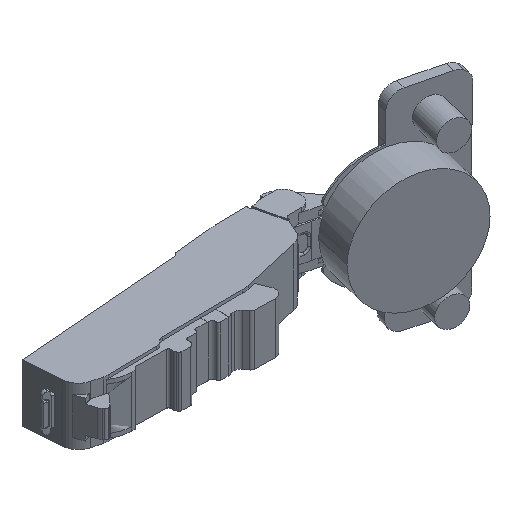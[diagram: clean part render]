
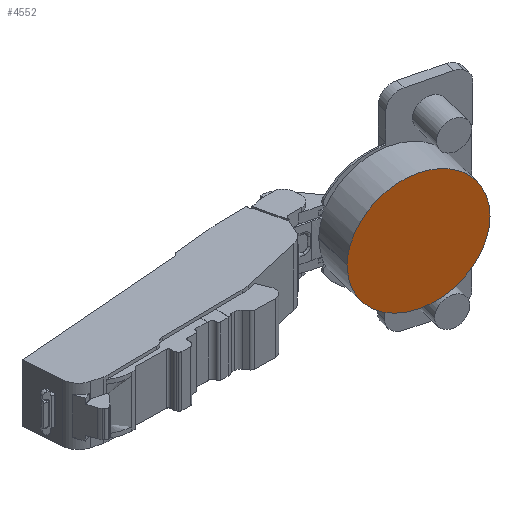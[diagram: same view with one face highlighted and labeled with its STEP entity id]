
A CAD part, isometric view. The second image highlights one B-rep face of the part: STEP entity #4552.
In plain terms, the highlighted planar face has unit normal (-0.242, -0.97, 0).
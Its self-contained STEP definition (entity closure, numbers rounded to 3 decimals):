
#70 = FACE_OUTER_BOUND ( 'NONE', #10309, .T. ) ;
#287 = CARTESIAN_POINT ( 'NONE',  ( 2.622, 11.869, 7.665 ) ) ;
#289 = ORIENTED_EDGE ( 'NONE', *, *, #3251, .T. ) ;
#412 = CARTESIAN_POINT ( 'NONE',  ( 1.325, 12.193, 0.967 ) ) ;
#604 = CARTESIAN_POINT ( 'NONE',  ( 33.366, 4.205, 8.673 ) ) ;
#738 = CARTESIAN_POINT ( 'NONE',  ( 22.164, 6.997, 17.927 ) ) ;
#795 = CARTESIAN_POINT ( 'NONE',  ( 19.547, 7.65, 18.327 ) ) ;
#854 = CARTESIAN_POINT ( 'NONE',  ( 16.862, 8.319, 18.367 ) ) ;
#1047 = AXIS2_PLACEMENT_3D ( 'NONE', #3821, #6646, #4870 ) ;
#1283 = CARTESIAN_POINT ( 'NONE',  ( 29.96, 5.054, 13.466 ) ) ;
#1400 = CARTESIAN_POINT ( 'NONE',  ( 32.654, 4.383, 10.085 ) ) ;
#1512 = CARTESIAN_POINT ( 'NONE',  ( 7.903, 10.553, 14.844 ) ) ;
#1525 = CARTESIAN_POINT ( 'NONE',  ( 34.83, 3.84, 4.543 ) ) ;
#1542 = EDGE_CURVE ( 'NONE', #3323, #7527, #3870, .T. ) ;
#1554 = CARTESIAN_POINT ( 'NONE',  ( 1.326, 12.192, 1.13 ) ) ;
#1965 = PLANE ( 'NONE',  #1047 ) ;
#2145 = ORIENTED_EDGE ( 'NONE', *, *, #2726, .T. ) ;
#2435 = CARTESIAN_POINT ( 'NONE',  ( 2.211, 11.972, 6.548 ) ) ;
#2726 = EDGE_CURVE ( 'NONE', #5586, #3323, #8521, .T. ) ;
#2958 = EDGE_CURVE ( 'NONE', #7527, #7796, #6310, .T. ) ;
#3127 = CARTESIAN_POINT ( 'NONE',  ( 6.21, 10.975, 13.215 ) ) ;
#3251 = EDGE_CURVE ( 'NONE', #9766, #5586, #7053, .T. ) ;
#3308 = CARTESIAN_POINT ( 'NONE',  ( 3.805, 11.574, 10.154 ) ) ;
#3323 = VERTEX_POINT ( 'NONE', #412 ) ;
#3333 = CARTESIAN_POINT ( 'NONE',  ( 18.208, 7.984, 0.967 ) ) ;
#3376 = CARTESIAN_POINT ( 'NONE',  ( 35.092, 3.775, 2.58 ) ) ;
#3821 = CARTESIAN_POINT ( 'NONE',  ( 30.092, 5.021, -4.712 ) ) ;
#3870 = CIRCLE ( 'NONE', #10955, 17.4 ) ;
#4049 = CARTESIAN_POINT ( 'NONE',  ( 1.34, 12.189, 2.727 ) ) ;
#4119 = CARTESIAN_POINT ( 'NONE',  ( 2.476, 11.906, 7.294 ) ) ;
#4301 = CARTESIAN_POINT ( 'NONE',  ( 5.679, 11.107, 12.637 ) ) ;
#4371 = CARTESIAN_POINT ( 'NONE',  ( 30.773, 4.851, 12.597 ) ) ;
#4503 = CARTESIAN_POINT ( 'NONE',  ( 25.305, 6.215, 16.77 ) ) ;
#4552 = ADVANCED_FACE ( 'NONE', ( #70 ), #1965, .F. ) ;
#4558 = CARTESIAN_POINT ( 'NONE',  ( 12.041, 9.521, 17.168 ) ) ;
#4762 = CARTESIAN_POINT ( 'NONE',  ( 25.898, 6.067, 16.458 ) ) ;
#4870 = DIRECTION ( 'NONE',  ( 0., 0., 1. ) ) ;
#5050 = CARTESIAN_POINT ( 'NONE',  ( 25.898, 6.067, 16.458 ) ) ;
#5099 = CARTESIAN_POINT ( 'NONE',  ( 4.915, 11.298, 11.748 ) ) ;
#5168 = CARTESIAN_POINT ( 'NONE',  ( 28.535, 5.409, 14.828 ) ) ;
#5315 = CARTESIAN_POINT ( 'NONE',  ( 1.325, 12.193, 1.076 ) ) ;
#5413 = CARTESIAN_POINT ( 'NONE',  ( 11.728, 9.599, 17.038 ) ) ;
#5586 = VERTEX_POINT ( 'NONE', #9621 ) ;
#5844 = ORIENTED_EDGE ( 'NONE', *, *, #2958, .T. ) ;
#5962 = CARTESIAN_POINT ( 'NONE',  ( 31.541, 4.66, 11.698 ) ) ;
#6012 = CARTESIAN_POINT ( 'NONE',  ( 9.153, 10.241, 15.741 ) ) ;
#6028 = CARTESIAN_POINT ( 'NONE',  ( 35.092, 3.775, 0.967 ) ) ;
#6071 = CARTESIAN_POINT ( 'NONE',  ( 1.326, 12.192, 1.13 ) ) ;
#6277 = CARTESIAN_POINT ( 'NONE',  ( 20.864, 7.322, 18.167 ) ) ;
#6310 = B_SPLINE_CURVE_WITH_KNOTS ( 'NONE', 3,
 ( #6028, #3376, #1525, #9983, #9060, #9734, #604, #1400, #5962, #4371, #8122, #1283, #5168, #8938, #5050 ),
 .UNSPECIFIED., .F., .F.,
 ( 4, 1, 2, 2, 1, 1, 2, 2, 4 ),
 ( 0., 0.087, 0.109, 0.131, 0.175, 0.219, 0.24, 0.262, 0.35 ),
 .UNSPECIFIED. ) ;
#6455 = CARTESIAN_POINT ( 'NONE',  ( 25.898, 6.067, 16.458 ) ) ;
#6646 = DIRECTION ( 'NONE',  ( 0.242, 0.97, 0. ) ) ;
#6958 = DIRECTION ( 'NONE',  ( -0.97, 0.242, 0. ) ) ;
#7053 = B_SPLINE_CURVE_WITH_KNOTS ( 'NONE', 3,
 ( #10888, #6012, #1512, #10643, #3127, #4301, #5099, #3308, #8051, #287, #4119, #2435, #7924, #4049, #6071 ),
 .UNSPECIFIED., .F., .F.,
 ( 4, 2, 2, 1, 1, 2, 2, 1, 4 ),
 ( 0.65, 0.737, 0.759, 0.78, 0.824, 0.867, 0.889, 0.91, 0.997 ),
 .UNSPECIFIED. ) ;
#7144 = DIRECTION ( 'NONE',  ( -0.242, -0.97, 0. ) ) ;
#7222 = CARTESIAN_POINT ( 'NONE',  ( 1.325, 12.193, 1.021 ) ) ;
#7319 = CARTESIAN_POINT ( 'NONE',  ( 12.984, 9.286, 17.528 ) ) ;
#7527 = VERTEX_POINT ( 'NONE', #8487 ) ;
#7796 = VERTEX_POINT ( 'NONE', #4762 ) ;
#7924 = CARTESIAN_POINT ( 'NONE',  ( 1.615, 12.12, 4.671 ) ) ;
#8051 = CARTESIAN_POINT ( 'NONE',  ( 3.091, 11.752, 8.758 ) ) ;
#8122 = CARTESIAN_POINT ( 'NONE',  ( 30.238, 4.985, 13.181 ) ) ;
#8258 = CARTESIAN_POINT ( 'NONE',  ( 18.878, 7.817, 18.367 ) ) ;
#8312 = CARTESIAN_POINT ( 'NONE',  ( 23.433, 6.681, 17.529 ) ) ;
#8487 = CARTESIAN_POINT ( 'NONE',  ( 35.092, 3.775, 0.967 ) ) ;
#8521 = B_SPLINE_CURVE_WITH_KNOTS ( 'NONE', 3,
 ( #1554, #5315, #7222, #10988 ),
 .UNSPECIFIED., .F., .F.,
 ( 4, 4 ),
 ( 0.997, 1. ),
 .UNSPECIFIED. ) ;
#8938 = CARTESIAN_POINT ( 'NONE',  ( 27.276, 5.723, 15.735 ) ) ;
#9060 = CARTESIAN_POINT ( 'NONE',  ( 33.979, 4.052, 7.193 ) ) ;
#9233 = B_SPLINE_CURVE_WITH_KNOTS ( 'NONE', 3,
 ( #6455, #4503, #10274, #8312, #738, #6277, #795, #8258, #854, #12019, #7319, #4558, #5413, #10044, #11089, #12144 ),
 .UNSPECIFIED., .F., .F.,
 ( 4, 2, 1, 2, 2, 1, 2, 2, 4 ),
 ( 0.353, 0.39, 0.428, 0.465, 0.503, 0.578, 0.616, 0.635, 0.653 ),
 .UNSPECIFIED. ) ;
#9510 = EDGE_CURVE ( 'NONE', #7796, #9766, #9233, .T. ) ;
#9621 = CARTESIAN_POINT ( 'NONE',  ( 1.326, 12.192, 1.13 ) ) ;
#9734 = CARTESIAN_POINT ( 'NONE',  ( 33.834, 4.088, 7.568 ) ) ;
#9766 = VERTEX_POINT ( 'NONE', #10779 ) ;
#9983 = CARTESIAN_POINT ( 'NONE',  ( 34.24, 3.987, 6.44 ) ) ;
#10044 = CARTESIAN_POINT ( 'NONE',  ( 11.115, 9.752, 16.761 ) ) ;
#10274 = CARTESIAN_POINT ( 'NONE',  ( 24.685, 6.369, 17.05 ) ) ;
#10309 = EDGE_LOOP ( 'NONE', ( #12155, #289, #2145, #11904, #5844 ) ) ;
#10643 = CARTESIAN_POINT ( 'NONE',  ( 6.487, 10.906, 13.497 ) ) ;
#10779 = CARTESIAN_POINT ( 'NONE',  ( 10.518, 9.901, 16.458 ) ) ;
#10888 = CARTESIAN_POINT ( 'NONE',  ( 10.518, 9.901, 16.458 ) ) ;
#10955 = AXIS2_PLACEMENT_3D ( 'NONE', #3333, #7144, #6958 ) ;
#10988 = CARTESIAN_POINT ( 'NONE',  ( 1.325, 12.193, 0.967 ) ) ;
#11089 = CARTESIAN_POINT ( 'NONE',  ( 10.814, 9.827, 16.614 ) ) ;
#11904 = ORIENTED_EDGE ( 'NONE', *, *, #1542, .T. ) ;
#12019 = CARTESIAN_POINT ( 'NONE',  ( 14.89, 8.811, 18.128 ) ) ;
#12144 = CARTESIAN_POINT ( 'NONE',  ( 10.518, 9.901, 16.458 ) ) ;
#12155 = ORIENTED_EDGE ( 'NONE', *, *, #9510, .T. ) ;
